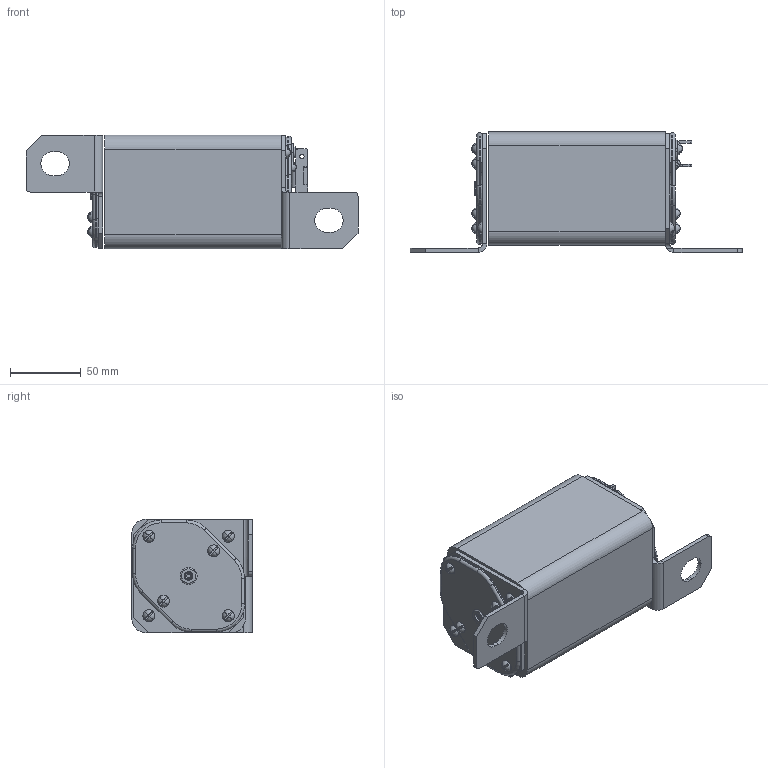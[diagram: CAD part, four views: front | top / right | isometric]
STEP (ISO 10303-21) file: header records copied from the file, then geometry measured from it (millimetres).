
FILE_DESCRIPTION (( 'STEP AP203' ), '1' );
FILE_NAME ('砎槼隰譇膻蠈錪 珫57-3717.STEP', '2014-06-26T11:00:24', ( 'admin' ), ( 'Microsoft' ), 'SwSTEP 2.0', 'SolidWorks 2007', '' );
FILE_SCHEMA (( 'CONFIG_CONTROL_DESIGN' ));
Length unit declared in the file: millimetre
Products named in the file (1): 砎槼隰譇膻蠈錪 珫57-3717
Bounding box: 234 x 85.2 x 80 mm (x, y, z)
Surface area: 104946.2 mm2 (no closed solid volume)
Topology: 0 solids, 29 shells, 295 faces, 917 edges, 651 vertices
Faces by surface type: plane 140, cylinder 109, sphere 26, torus 18, cone 2
Entity records: 10554 total; most frequent: DIRECTION 1974, CARTESIAN_POINT 1960, ORIENTED_EDGE 1495, EDGE_CURVE 917, AXIS2_PLACEMENT_3D 767, VERTEX_POINT 651, CIRCLE 471, VECTOR 440
